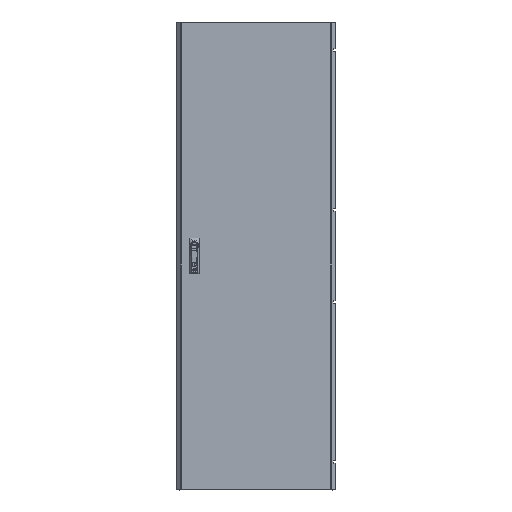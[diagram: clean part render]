
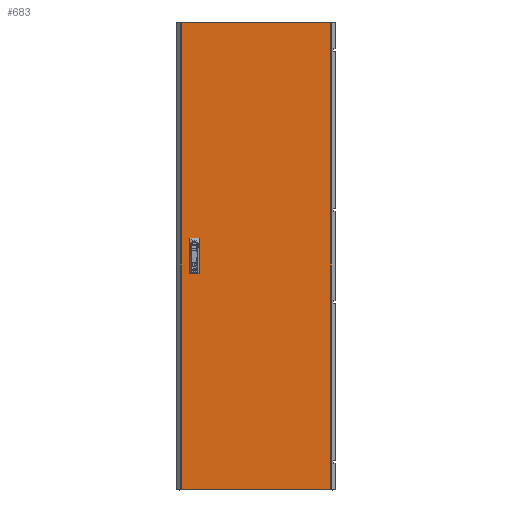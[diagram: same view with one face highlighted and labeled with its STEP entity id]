
A CAD part, top view. The second image highlights one B-rep face of the part: STEP entity #683.
In plain terms, the highlighted planar face has unit normal (0, 0, 1).
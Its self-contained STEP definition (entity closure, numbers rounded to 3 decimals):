
#683 = ADVANCED_FACE ( 'NONE', ( #131518, #134294, #89244 ), #89935, .F. ) ;
#2658 = DIRECTION ( 'NONE',  ( 1., 0., 0. ) ) ;
#2887 = ORIENTED_EDGE ( 'NONE', *, *, #98582, .F. ) ;
#4552 = LINE ( 'NONE', #68029, #25826 ) ;
#5356 = VECTOR ( 'NONE', #47332, 1000. ) ;
#8367 = DIRECTION ( 'NONE',  ( -1., 0., 0. ) ) ;
#8852 = EDGE_CURVE ( 'NONE', #117110, #114070, #67494, .T. ) ;
#9058 = CARTESIAN_POINT ( 'NONE',  ( -242.5, -12.5, 0. ) ) ;
#18428 = VERTEX_POINT ( 'NONE', #22419 ) ;
#19924 = VERTEX_POINT ( 'NONE', #57116 ) ;
#19986 = LINE ( 'NONE', #21371, #20523 ) ;
#20523 = VECTOR ( 'NONE', #63666, 1000. ) ;
#21371 = CARTESIAN_POINT ( 'NONE',  ( -242.5, 62.5, 0. ) ) ;
#21410 = VERTEX_POINT ( 'NONE', #29837 ) ;
#22419 = CARTESIAN_POINT ( 'NONE',  ( -217.5, 62.5, 0. ) ) ;
#24885 = LINE ( 'NONE', #25606, #69241 ) ;
#25221 = CARTESIAN_POINT ( 'NONE',  ( -217.5, -12.5, 0. ) ) ;
#25606 = CARTESIAN_POINT ( 'NONE',  ( -242.5, 12.5, 0. ) ) ;
#25826 = VECTOR ( 'NONE', #132191, 1000. ) ;
#26270 = EDGE_LOOP ( 'NONE', ( #105230, #76415, #51884, #86759 ) ) ;
#27149 = CARTESIAN_POINT ( 'NONE',  ( 0., 0., 0. ) ) ;
#28063 = DIRECTION ( 'NONE',  ( 0., -1., 0. ) ) ;
#28103 = CARTESIAN_POINT ( 'NONE',  ( -217.5, 12.5, 0. ) ) ;
#29837 = CARTESIAN_POINT ( 'NONE',  ( -242.5, 12.5, 0. ) ) ;
#30017 = DIRECTION ( 'NONE',  ( 0., 1., 0. ) ) ;
#33008 = VECTOR ( 'NONE', #89966, 1000. ) ;
#34725 = VERTEX_POINT ( 'NONE', #56017 ) ;
#37155 = CARTESIAN_POINT ( 'NONE',  ( 277.875, -869.5, 0. ) ) ;
#38130 = VERTEX_POINT ( 'NONE', #53032 ) ;
#39161 = EDGE_CURVE ( 'NONE', #38130, #21410, #59562, .T. ) ;
#39984 = DIRECTION ( 'NONE',  ( 0., 1., 0. ) ) ;
#40806 = LINE ( 'NONE', #9058, #73857 ) ;
#44393 = VERTEX_POINT ( 'NONE', #28103 ) ;
#47042 = LINE ( 'NONE', #90117, #65656 ) ;
#47332 = DIRECTION ( 'NONE',  ( 1., 0., 0. ) ) ;
#47904 = VERTEX_POINT ( 'NONE', #25221 ) ;
#48457 = VECTOR ( 'NONE', #74591, 1000. ) ;
#49185 = LINE ( 'NONE', #116693, #137379 ) ;
#49355 = EDGE_LOOP ( 'NONE', ( #104612, #74420, #109981, #132704 ) ) ;
#49883 = EDGE_CURVE ( 'NONE', #92861, #47904, #114069, .T. ) ;
#51884 = ORIENTED_EDGE ( 'NONE', *, *, #90426, .F. ) ;
#53032 = CARTESIAN_POINT ( 'NONE',  ( -242.5, 62.5, 0. ) ) ;
#53350 = ORIENTED_EDGE ( 'NONE', *, *, #72209, .F. ) ;
#56017 = CARTESIAN_POINT ( 'NONE',  ( -277.875, 869.5, 0. ) ) ;
#57116 = CARTESIAN_POINT ( 'NONE',  ( -242.5, -12.5, 0. ) ) ;
#58966 = VERTEX_POINT ( 'NONE', #81851 ) ;
#59562 = LINE ( 'NONE', #92769, #33008 ) ;
#60460 = EDGE_CURVE ( 'NONE', #44393, #18428, #71623, .T. ) ;
#62301 = ORIENTED_EDGE ( 'NONE', *, *, #39161, .F. ) ;
#63280 = LINE ( 'NONE', #107697, #48457 ) ;
#63666 = DIRECTION ( 'NONE',  ( -1., 0., 0. ) ) ;
#65656 = VECTOR ( 'NONE', #2658, 1000. ) ;
#65775 = VERTEX_POINT ( 'NONE', #88497 ) ;
#67200 = VECTOR ( 'NONE', #110529, 1000. ) ;
#67494 = LINE ( 'NONE', #37155, #67200 ) ;
#68029 = CARTESIAN_POINT ( 'NONE',  ( -242.5, -62.5, 0. ) ) ;
#69198 = CARTESIAN_POINT ( 'NONE',  ( -242.5, -62.5, 0. ) ) ;
#69241 = VECTOR ( 'NONE', #101051, 1000. ) ;
#71623 = LINE ( 'NONE', #137172, #126064 ) ;
#72209 = EDGE_CURVE ( 'NONE', #18428, #38130, #19986, .T. ) ;
#73857 = VECTOR ( 'NONE', #8367, 1000. ) ;
#74420 = ORIENTED_EDGE ( 'NONE', *, *, #132478, .T. ) ;
#74591 = DIRECTION ( 'NONE',  ( -1., 0., 0. ) ) ;
#76415 = ORIENTED_EDGE ( 'NONE', *, *, #49883, .F. ) ;
#78631 = DIRECTION ( 'NONE',  ( 0., 0., -1. ) ) ;
#81851 = CARTESIAN_POINT ( 'NONE',  ( -242.5, -62.5, 0. ) ) ;
#86759 = ORIENTED_EDGE ( 'NONE', *, *, #131354, .F. ) ;
#88056 = ORIENTED_EDGE ( 'NONE', *, *, #60460, .F. ) ;
#88497 = CARTESIAN_POINT ( 'NONE',  ( -277.875, -869.5, 0. ) ) ;
#88705 = CARTESIAN_POINT ( 'NONE',  ( -217.5, -62.5, 0. ) ) ;
#89244 = FACE_OUTER_BOUND ( 'NONE', #49355, .T. ) ;
#89935 = PLANE ( 'NONE',  #107200 ) ;
#89966 = DIRECTION ( 'NONE',  ( 0., -1., 0. ) ) ;
#90117 = CARTESIAN_POINT ( 'NONE',  ( -277.875, -869.5, 0. ) ) ;
#90426 = EDGE_CURVE ( 'NONE', #58966, #92861, #103057, .T. ) ;
#92769 = CARTESIAN_POINT ( 'NONE',  ( -242.5, 12.5, 0. ) ) ;
#92861 = VERTEX_POINT ( 'NONE', #88705 ) ;
#98582 = EDGE_CURVE ( 'NONE', #21410, #44393, #24885, .T. ) ;
#101051 = DIRECTION ( 'NONE',  ( 1., 0., 0. ) ) ;
#102107 = EDGE_CURVE ( 'NONE', #34725, #65775, #49185, .T. ) ;
#102781 = CARTESIAN_POINT ( 'NONE',  ( -217.5, -62.5, 0. ) ) ;
#103057 = LINE ( 'NONE', #69198, #5356 ) ;
#104612 = ORIENTED_EDGE ( 'NONE', *, *, #8852, .T. ) ;
#105230 = ORIENTED_EDGE ( 'NONE', *, *, #110369, .F. ) ;
#106040 = EDGE_LOOP ( 'NONE', ( #53350, #88056, #2887, #62301 ) ) ;
#106270 = CARTESIAN_POINT ( 'NONE',  ( 277.875, -869.5, 0. ) ) ;
#107200 = AXIS2_PLACEMENT_3D ( 'NONE', #27149, #78631, #121656 ) ;
#107697 = CARTESIAN_POINT ( 'NONE',  ( -277.875, 869.5, 0. ) ) ;
#109981 = ORIENTED_EDGE ( 'NONE', *, *, #102107, .T. ) ;
#110369 = EDGE_CURVE ( 'NONE', #47904, #19924, #40806, .T. ) ;
#110529 = DIRECTION ( 'NONE',  ( 0., 1., 0. ) ) ;
#110814 = VECTOR ( 'NONE', #39984, 1000. ) ;
#114069 = LINE ( 'NONE', #102781, #110814 ) ;
#114070 = VERTEX_POINT ( 'NONE', #132176 ) ;
#116693 = CARTESIAN_POINT ( 'NONE',  ( -277.875, -869.5, 0. ) ) ;
#117110 = VERTEX_POINT ( 'NONE', #106270 ) ;
#121656 = DIRECTION ( 'NONE',  ( -1., 0., 0. ) ) ;
#125326 = EDGE_CURVE ( 'NONE', #65775, #117110, #47042, .T. ) ;
#126064 = VECTOR ( 'NONE', #30017, 1000. ) ;
#131354 = EDGE_CURVE ( 'NONE', #19924, #58966, #4552, .T. ) ;
#131518 = FACE_BOUND ( 'NONE', #106040, .T. ) ;
#132176 = CARTESIAN_POINT ( 'NONE',  ( 277.875, 869.5, 0. ) ) ;
#132191 = DIRECTION ( 'NONE',  ( 0., -1., 0. ) ) ;
#132478 = EDGE_CURVE ( 'NONE', #114070, #34725, #63280, .T. ) ;
#132704 = ORIENTED_EDGE ( 'NONE', *, *, #125326, .T. ) ;
#134294 = FACE_BOUND ( 'NONE', #26270, .T. ) ;
#137172 = CARTESIAN_POINT ( 'NONE',  ( -217.5, 12.5, 0. ) ) ;
#137379 = VECTOR ( 'NONE', #28063, 1000. ) ;
